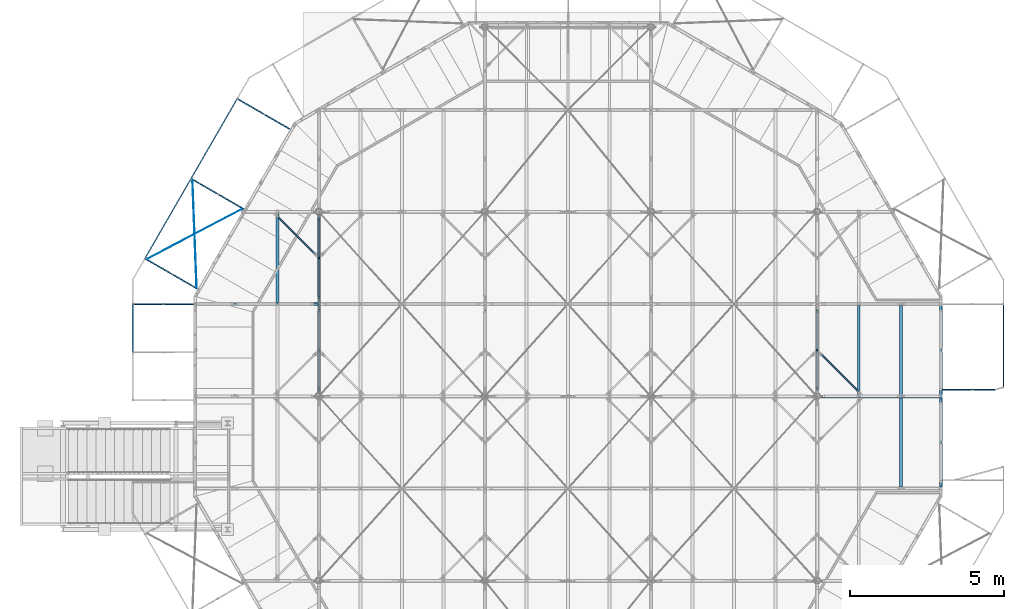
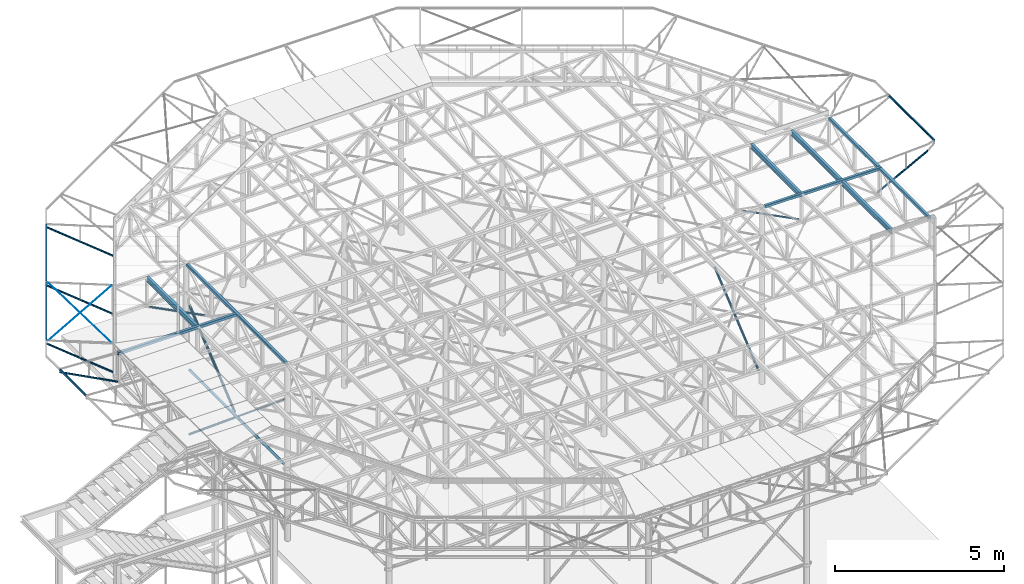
# One storey, part 15 of 132: 18 beams, 10 members, 28 elements without a shape of their own.
"""IFC2X3 building model written with IfcOpenShell, lengths in millimetres."""

import ifcopenshell
import ifcopenshell.guid

model = None  # the IFC model being written
_history = None  # IfcOwnerHistory: only IFC2X3 demands one
_inside = {}  # id of a spatial element -> (the spatial element, [elements in it])
_under = {}  # id of a project, library or spatial element -> (it, [spatial elements below it])
_declared = {}  # id of a project -> (the project, [libraries it declares])
_typed = {}  # id of a type object -> (the type object, [elements of that type])
_made_of = {}  # id of a material, layer set ... -> (it, [elements and type objects made of it])


def new_model(schema):
    """Start an empty IFC model of exactly this schema.

    Asked for "IFC4X3", IfcOpenShell would pick the latest addendum, in which some entities
    have other attributes; the version numbers below select the first issue.
    IFC2X3 requires an IfcOwnerHistory on every rooted entity: one is made here for all.
    """
    global model, _history
    if schema == "IFC4X3":
        model = ifcopenshell.file(schema_version=(4, 3, 0, 0))
    else:
        model = ifcopenshell.file(schema=schema)
    _inside.clear()
    _under.clear()
    _declared.clear()
    _typed.clear()
    _made_of.clear()
    _history = None
    if model.schema == "IFC2X3":
        org = make("IfcOrganization", Name="unknown")
        user = make(
            "IfcPersonAndOrganization",
            ThePerson=make("IfcPerson", FamilyName="unknown"),
            TheOrganization=org,
        )
        app = make(
            "IfcApplication",
            ApplicationDeveloper=org,
            Version="unknown",
            ApplicationFullName="unknown",
            ApplicationIdentifier="unknown",
        )
        _history = make(
            "IfcOwnerHistory",
            OwningUser=user,
            OwningApplication=app,
            ChangeAction="ADDED",
            CreationDate=0,
        )
    return model


def make(cls, **values):
    """One entity of the class cls with the attributes given. An attribute that is None is left unset."""
    return model.create_entity(
        cls, **{name: value for name, value in values.items() if value is not None}
    )


def rooted(cls, **values):
    """An entity with a GlobalId (a new one), such as an element, a storey or a relation."""
    return make(cls, GlobalId=ifcopenshell.guid.new(), OwnerHistory=_history, **values)


def si_unit(unit_type, name, prefix=None):
    """IfcSIUnit, for example si_unit("LENGTHUNIT", "METRE", prefix="MILLI")."""
    return make("IfcSIUnit", UnitType=unit_type, Prefix=prefix, Name=name)


def assignment(units):
    """IfcUnitAssignment: the units of a project."""
    return None if units is None else make("IfcUnitAssignment", Units=units)


def point(xyz):
    """IfcCartesianPoint."""
    return None if xyz is None else make("IfcCartesianPoint", Coordinates=xyz)


def direction(xyz):
    """IfcDirection."""
    return None if xyz is None else make("IfcDirection", DirectionRatios=xyz)


def frame(location, z_axis=None, x_axis=None):
    """IfcAxis2Placement3D, a coordinate frame: its origin and axes. An axis left out is left unset."""
    return make(
        "IfcAxis2Placement3D",
        Location=point(location),
        Axis=direction(z_axis),
        RefDirection=direction(x_axis),
    )


def frame_2d(location, x_axis=None):
    """IfcAxis2Placement2D, a coordinate frame in the plane: its origin and x axis."""
    return make(
        "IfcAxis2Placement2D", Location=point(location), RefDirection=direction(x_axis)
    )


def origin_with_axes():
    """The frame at (0, 0, 0) with the z axis (0, 0, 1) and the x axis (1, 0, 0) written out."""
    return frame((0.0, 0.0, 0.0), z_axis=(0.0, 0.0, 1.0), x_axis=(1.0, 0.0, 0.0))


def origin_2d_with_axis():
    """The frame at (0, 0) in the plane with the x axis (1, 0) written out."""
    return frame_2d((0.0, 0.0), x_axis=(1.0, 0.0))


def place(relative_to, where):
    """IfcLocalPlacement: puts the frame where relative to a parent placement (None: the world)."""
    return make(
        "IfcLocalPlacement", PlacementRelTo=relative_to, RelativePlacement=where
    )


def context(
    kind, dimensions, precision=None, world=None, true_north=None, identifier=None
):
    """IfcGeometricRepresentationContext, for example the 3D "Model" context."""
    return make(
        "IfcGeometricRepresentationContext",
        ContextIdentifier=identifier,
        ContextType=kind,
        CoordinateSpaceDimension=dimensions,
        Precision=precision,
        WorldCoordinateSystem=world,
        TrueNorth=true_north,
    )


def subcontext(parent, identifier, kind, view, scale=None):
    """IfcGeometricRepresentationSubContext, for example "Body" below "Model"."""
    return make(
        "IfcGeometricRepresentationSubContext",
        ContextIdentifier=identifier,
        ContextType=kind,
        ParentContext=parent,
        TargetScale=scale,
        TargetView=view,
    )


def project(units=None, contexts=None):
    """IfcProject with its units and contexts."""
    return rooted(
        "IfcProject",
        Name="project",
        RepresentationContexts=contexts,
        UnitsInContext=assignment(units),
    )


def spatial(cls, under=None, at=None, **own):
    """A site, building, storey or space (cls), placed at a placement, below another one or the project."""
    s = rooted(cls, ObjectPlacement=at, **own)
    if under is not None:
        _under.setdefault(under.id(), (under, []))[1].append(s)
    return s


def polyline(points):
    """IfcPolyline through the points."""
    return make("IfcPolyline", Points=[point(p) for p in points])


def profile(cls, at=None, kind="AREA", **sizes):
    """A parametric profile (cls). Its sizes go by their IFC names, for example OverallWidth=200.0."""
    return make(cls, ProfileType=kind, Position=at, **sizes)


def rectangle(**sizes):
    """IfcRectangleProfileDef."""
    return profile("IfcRectangleProfileDef", **sizes)


def hollow_rectangle(**sizes):
    """IfcRectangleHollowProfileDef."""
    return profile("IfcRectangleHollowProfileDef", **sizes)


def circle(**sizes):
    """IfcCircleProfileDef."""
    return profile("IfcCircleProfileDef", **sizes)


def hollow_circle(**sizes):
    """IfcCircleHollowProfileDef."""
    return profile("IfcCircleHollowProfileDef", **sizes)


def i_section(**sizes):
    """IfcIShapeProfileDef."""
    return profile("IfcIShapeProfileDef", **sizes)


def u_section(**sizes):
    """IfcUShapeProfileDef."""
    return profile("IfcUShapeProfileDef", **sizes)


def outline(outer, holes=None, kind="AREA"):
    """IfcArbitraryClosedProfileDef: a profile drawn as a closed curve; with holes, ...WithVoids."""
    if holes is None:
        return make("IfcArbitraryClosedProfileDef", ProfileType=kind, OuterCurve=outer)
    return make(
        "IfcArbitraryProfileDefWithVoids",
        ProfileType=kind,
        OuterCurve=outer,
        InnerCurves=holes,
    )


def extrude(swept, where, along, depth):
    """IfcExtrudedAreaSolid: the profile swept, set in the frame where, extruded along a direction by depth."""
    return make(
        "IfcExtrudedAreaSolid",
        SweptArea=swept,
        Position=where,
        ExtrudedDirection=direction(along),
        Depth=depth,
    )


def boolean(op, a, b):
    """IfcBooleanResult of two solids."""
    return make("IfcBooleanResult", Operator=op, FirstOperand=a, SecondOperand=b)


def clip(a, b, op="DIFFERENCE"):
    """IfcBooleanClippingResult: the solid a cut by the half space b."""
    return make(
        "IfcBooleanClippingResult", Operator=op, FirstOperand=a, SecondOperand=b
    )


def halfspace(plane, agree):
    """IfcHalfSpaceSolid: all space on one side of the plane z = 0 of the frame plane."""
    return make(
        "IfcHalfSpaceSolid",
        BaseSurface=make("IfcPlane", Position=plane),
        AgreementFlag=agree,
    )


def shape(context_of_items, identifier, shape_type, items):
    """IfcShapeRepresentation: the items that make up one representation, for example the "Body"."""
    return make(
        "IfcShapeRepresentation",
        ContextOfItems=context_of_items,
        RepresentationIdentifier=identifier,
        RepresentationType=shape_type,
        Items=items,
    )


def material(Name=None, Category=None):
    """IfcMaterial."""
    return make("IfcMaterial", Name=Name, Category=Category)


def made_of(thing, what):
    """Note that an element or type object is made of a material, layer set ...; save() writes the relation."""
    if what is not None:
        _made_of.setdefault(what.id(), (what, []))[1].append(thing)
    return thing


def type_object(cls, material=None, **own):
    """A type object (cls), such as IfcWallType, which elements share."""
    return made_of(rooted(cls, **own), material)


def element(
    cls,
    number,
    at=None,
    inside=None,
    cuts=None,
    type_object=None,
    material=None,
    context=None,
    identifier="Body",
    shape_type=None,
    held_by="IfcProductDefinitionShape",
    body=None,
    shapes=None,
    **own,
):
    """One element of the class cls, such as IfcWall. Its Tag is "e" and its number.

    at: its placement. inside: the storey or other place that contains it. cuts: it is an
    opening in that element (IfcRelVoidsElement). A single representation is given by context,
    identifier, shape_type and body (its items); several are given by shapes. held_by: the class
    of the entity that holds the representations. save() writes the other relations.
    """
    e = rooted(cls, Tag="e%d" % number, ObjectPlacement=at, **own)
    if body is not None:
        shapes = [shape(context, identifier, shape_type, body)]
    if shapes is not None:
        e.Representation = make(held_by, Representations=shapes)
    if inside is not None:
        _inside.setdefault(inside.id(), (inside, []))[1].append(e)
    if cuts is not None:
        rooted(
            "IfcRelVoidsElement", RelatingBuildingElement=cuts, RelatedOpeningElement=e
        )
    if type_object is not None:
        _typed.setdefault(type_object.id(), (type_object, []))[1].append(e)
    return made_of(e, material)


def aggregate(whole, parts):
    """IfcRelAggregates: a whole, such as a stair, and the parts it consists of."""
    return rooted("IfcRelAggregates", RelatingObject=whole, RelatedObjects=parts)


def save(model, path):
    """Write the relations noted so far, then the file.

    IfcRelAggregates (storeys below a building ...), IfcRelContainedInSpatialStructure (elements
    in a storey), IfcRelDefinesByType, IfcRelAssociatesMaterial and IfcRelDeclares: one each for
    every whole, place, type object, material and project.
    """
    for whole, parts in _under.values():
        aggregate(whole, parts)
    for where, things in _inside.values():
        rooted(
            "IfcRelContainedInSpatialStructure",
            RelatedElements=things,
            RelatingStructure=where,
        )
    for kind, things in _typed.values():
        rooted("IfcRelDefinesByType", RelatedObjects=things, RelatingType=kind)
    for what, things in _made_of.values():
        rooted("IfcRelAssociatesMaterial", RelatedObjects=things, RelatingMaterial=what)
    for by, libraries in _declared.values():
        rooted("IfcRelDeclares", RelatingContext=by, RelatedDefinitions=libraries)
    model.write(path)


model = new_model("IFC2X3")

# Units and contexts
model_context = context("Model", 3, precision=1e-05, world=origin_with_axes())
body_context = subcontext(model_context, "Body", "Model", "MODEL_VIEW")
ifc_project = project(units=[si_unit("LENGTHUNIT", "METRE", prefix="MILLI"), si_unit("AREAUNIT", "SQUARE_METRE"), si_unit("VOLUMEUNIT", "CUBIC_METRE"), si_unit("MASSUNIT", "GRAM", prefix="KILO"), si_unit("TIMEUNIT", "SECOND"), si_unit("PLANEANGLEUNIT", "RADIAN"), si_unit("SOLIDANGLEUNIT", "STERADIAN"), si_unit("THERMODYNAMICTEMPERATUREUNIT", "DEGREE_CELSIUS"), si_unit("LUMINOUSINTENSITYUNIT", "LUMEN")], contexts=[model_context])

# Site, building, storey
site_placement = place(None, origin_with_axes())
site = spatial("IfcSite", under=ifc_project, at=site_placement, Name="Budowa", CompositionType="ELEMENT")
building_placement = place(site_placement, origin_with_axes())
building = spatial("IfcBuilding", under=site, at=building_placement, Name="Undefined", CompositionType="ELEMENT")
storey_placement = place(building_placement, origin_with_axes())
storey = spatial("IfcBuildingStorey", under=building, at=storey_placement, Name="Undefined", CompositionType="ELEMENT", Elevation=0.0)

# Assembly, member
assembly_1_placement = place(storey_placement, origin_with_axes())
assembly_1 = element("IfcElementAssembly", 1, at=assembly_1_placement, inside=storey, Name="Steel Assembly", AssemblyPlace="NOTDEFINED", PredefinedType="RIGID_FRAME")
ifc_material_1 = material(Name="STEEL/S235JR")
member_type_1 = type_object("IfcMemberType", Name="CHS76.1*3", PredefinedType="NOTDEFINED")
member_1_placement = place(assembly_1_placement, frame((4016.99999738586, 17860.1013797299, 7739.00004577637), z_axis=(1.0, 0.0, 0.0), x_axis=(0.0, -0.76906919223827, 0.639165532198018)))
member_1 = element("IfcMember", 2, at=member_1_placement, type_object=member_type_1, material=ifc_material_1, Name="BEAM", ObjectType="CHS76.1*3", context=body_context, shape_type="CSG", body=[
    boolean("DIFFERENCE", boolean("DIFFERENCE", boolean("DIFFERENCE", boolean("DIFFERENCE", extrude(hollow_circle(Radius=38.05, WallThickness=3.0, at=origin_2d_with_axis()), frame((3481.05096829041, 0.0, 0.0), z_axis=(-1.0, 0.0, 0.0), x_axis=(0.0, -1.0, 0.0)), (0.0, 0.0, 1.0), 3395.69), extrude(rectangle(XDim=10.0, YDim=80.1, at=origin_2d_with_axis()), frame((3400.05097323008, 9.67559365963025e-14, 1.74737942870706e-06), z_axis=(1.0, 0.0, 0.0), x_axis=(0.0, 0.0, 1.0)), (0.0, 0.0, 1.0), 83.0)), extrude(rectangle(XDim=10.0, YDim=78.0, at=origin_2d_with_axis()), frame((166.363191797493, 5.83418868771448e-11, 2.32343882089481e-06), z_axis=(-1.0, 0.0, 0.0), x_axis=(0.0, 0.0, -1.0)), (0.0, 0.0, 1.0), 93.0)), halfspace(frame((3481.05096828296, 1.09139364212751e-11, 12.0000029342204), z_axis=(-1.0, 0.0, 0.0), x_axis=(0.0, -1.0, 0.0)), True)), halfspace(frame((85.3631917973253, 4.72937244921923e-11, 12.0000023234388), z_axis=(1.0, 0.0, 0.0), x_axis=(0.0, 0.0, -1.0)), True)),
])
aggregate(assembly_1, [member_1])

assembly_2_placement = place(storey_placement, origin_with_axes())
assembly_2 = element("IfcElementAssembly", 3, at=assembly_2_placement, inside=storey, Name="Steel Assembly", AssemblyPlace="NOTDEFINED", PredefinedType="RIGID_FRAME")
member_2_placement = place(assembly_2_placement, frame((4016.99999738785, 17860.1013797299, 12492.9997558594), z_axis=(1.0, 0.0, 0.0), x_axis=(0.0, -0.769069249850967, -0.639165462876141)))
member_2 = element("IfcMember", 4, at=member_2_placement, type_object=member_type_1, material=ifc_material_1, Name="BEAM", ObjectType="CHS76.1*3", context=body_context, shape_type="CSG", body=[
    boolean("DIFFERENCE", boolean("DIFFERENCE", boolean("DIFFERENCE", boolean("DIFFERENCE", extrude(hollow_circle(Radius=38.05, WallThickness=3.0, at=origin_2d_with_axis()), frame((3481.04986608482, -1.93237085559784e-13, 0.0), z_axis=(-1.0, 0.0, 0.0), x_axis=(0.0, -1.0, 0.0)), (0.0, 0.0, 1.0), 3395.69), extrude(rectangle(XDim=10.0, YDim=80.1, at=origin_2d_with_axis()), frame((3400.04985885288, -5.34461364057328e-13, 2.0142820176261e-06), z_axis=(1.0, 0.0, 0.0), x_axis=(0.0, 0.0, 1.0)), (0.0, 0.0, 1.0), 83.0)), extrude(rectangle(XDim=10.0, YDim=88.0, at=origin_2d_with_axis()), frame((166.363191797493, 5.83418868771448e-11, 2.32343882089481e-06), z_axis=(-1.0, 0.0, 0.0), x_axis=(0.0, 0.0, -1.0)), (0.0, 0.0, 1.0), 93.0)), halfspace(frame((3481.04986608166, -1.72803993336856e-11, 12.0000032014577), z_axis=(-1.0, 0.0, 0.0), x_axis=(0.0, -1.0, 0.0)), True)), halfspace(frame((85.3631917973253, 4.72937244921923e-11, 12.0000023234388), z_axis=(1.0, 0.0, 0.0), x_axis=(0.0, 0.0, -1.0)), True)),
])
aggregate(assembly_2, [member_2])

assembly_3_placement = place(storey_placement, origin_with_axes())
assembly_3 = element("IfcElementAssembly", 5, at=assembly_3_placement, inside=storey, Name="Steel Assembly", AssemblyPlace="NOTDEFINED", PredefinedType="RIGID_FRAME")
member_3_placement = place(assembly_3_placement, frame((20233.0000024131, 15000.0012512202, 10116.0002562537), z_axis=(-1.0, 0.0, 0.0), x_axis=(0.0, -0.769069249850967, -0.639165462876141)))
member_3 = element("IfcMember", 6, at=member_3_placement, type_object=member_type_1, material=ifc_material_1, Name="BEAM", ObjectType="CHS76.1*3", context=body_context, shape_type="CSG", body=[
    boolean("DIFFERENCE", boolean("DIFFERENCE", boolean("DIFFERENCE", boolean("DIFFERENCE", extrude(hollow_circle(Radius=38.05, WallThickness=3.0, at=origin_2d_with_axis()), frame((3633.55110961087, 0.0, 0.0), z_axis=(-1.0, 0.0, 0.0), x_axis=(0.0, -1.0, 0.0)), (0.0, 0.0, 1.0), 3395.69), extrude(rectangle(XDim=10.0, YDim=80.1, at=origin_2d_with_axis()), frame((318.860805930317, -8.477663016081e-13, 1.74539309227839e-06), z_axis=(-1.0, 0.0, 0.0), x_axis=(0.0, 0.0, 1.0)), (0.0, 0.0, 1.0), 83.0)), extrude(rectangle(XDim=10.0, YDim=78.0, at=origin_2d_with_axis()), frame((3552.55110960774, 4.53202460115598e-07, 2.41760790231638e-06), z_axis=(1.0, 0.0, 0.0), x_axis=(0.0, 0.0, 1.0)), (0.0, 0.0, 1.0), 93.0)), halfspace(frame((3633.55110960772, 4.53187567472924e-07, 12.0000024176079), z_axis=(-1.0, 0.0, 0.0), x_axis=(0.0, -1.0, 0.0)), True)), halfspace(frame((237.860802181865, 1.2732925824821e-11, 12.0000029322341), z_axis=(1.0, 0.0, 0.0), x_axis=(0.0, 1.0, 0.0)), True)),
])
aggregate(assembly_3, [member_3])

# Assembly, beam
assembly_4_placement = place(storey_placement, origin_with_axes())
assembly_4 = element("IfcElementAssembly", 7, at=assembly_4_placement, inside=storey, Name="Steel Assembly", AssemblyPlace="NOTDEFINED", PredefinedType="RIGID_FRAME")
beam_type_1 = type_object("IfcBeamType", Name="CHS88.9*3", PredefinedType="NOTDEFINED")
beam_1_placement = place(assembly_4_placement, frame((4017.00000617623, 12088.9000000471, 10116.0003779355), z_axis=(-1.0, 0.0, 0.0), x_axis=(0.0, 1.0, 0.0)))
beam_1 = element("IfcBeam", 8, at=beam_1_placement, type_object=beam_type_1, material=ifc_material_1, Name="BEAM", ObjectType="CHS88.9*3", context=body_context, shape_type="CSG", body=[
    boolean("DIFFERENCE", boolean("DIFFERENCE", boolean("DIFFERENCE", boolean("DIFFERENCE", extrude(hollow_circle(Radius=44.45, WallThickness=3.0, at=origin_2d_with_axis()), frame((5703.19209466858, 0.0, 0.0), z_axis=(-1.0, 0.0, 0.0), x_axis=(0.0, -1.0, 0.0)), (0.0, 0.0, 1.0), 5584.18), extrude(rectangle(XDim=9.0, YDim=92.9, at=origin_2d_with_axis()), frame((220.00790537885, 0.0, 3.42542261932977e-06), z_axis=(-1.0, 0.0, 0.0), x_axis=(0.0, 0.0, -1.0)), (0.0, 0.0, 1.0), 103.0)), extrude(rectangle(XDim=9.0, YDim=92.9, at=origin_2d_with_axis()), frame((5602.19209466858, 0.0, 3.70549059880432e-06), z_axis=(1.0, 0.0, 0.0), x_axis=(0.0, 0.0, -1.0)), (0.0, 0.0, 1.0), 103.0)), halfspace(frame((5703.19209466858, 0.0, -11.9999962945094), z_axis=(-1.0, 0.0, 0.0), x_axis=(0.0, 1.0, 0.0)), True)), halfspace(frame((119.00790537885, 0.0, -11.9999965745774), z_axis=(1.0, 0.0, 0.0), x_axis=(0.0, -1.0, 0.0)), True)),
])
aggregate(assembly_4, [beam_1])

# Assembly, member
assembly_5_placement = place(storey_placement, origin_with_axes())
assembly_5 = element("IfcElementAssembly", 9, at=assembly_5_placement, inside=storey, Name="Steel Assembly", AssemblyPlace="NOTDEFINED", PredefinedType="RIGID_FRAME")
ifc_material_2 = material(Name="STEEL/S235")
member_type_2 = type_object("IfcMemberType", Name="CHS60.3*6.3", PredefinedType="NOTDEFINED")
member_4_placement = place(assembly_5_placement, frame((4033.0000023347, 17860.1013797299, 7739.00004577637), z_axis=(-1.0, 0.0, 0.0), x_axis=(0.0, -0.76906919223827, 0.639165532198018)))
member_4 = element("IfcMember", 10, at=member_4_placement, type_object=member_type_2, material=ifc_material_2, Name="BEAM", ObjectType="CHS60.3*6.3", context=body_context, shape_type="CSG", body=[
    boolean("DIFFERENCE", boolean("DIFFERENCE", boolean("DIFFERENCE", boolean("DIFFERENCE", extrude(hollow_circle(Radius=30.15, WallThickness=6.3, at=origin_2d_with_axis()), frame((7362.46270940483, -4.08698780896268e-13, 0.0), z_axis=(-1.0, 0.0, 0.0), x_axis=(0.0, -1.0, 0.0)), (0.0, 0.0, 1.0), 7287.1), extrude(rectangle(XDim=8.0, YDim=64.3, at=origin_2d_with_axis()), frame((7312.46270938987, -3.70725672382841e-12, 2.41760744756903e-06), z_axis=(1.0, 0.0, 0.0), x_axis=(0.0, 0.0, 1.0)), (0.0, 0.0, 1.0), 52.0)), extrude(rectangle(XDim=8.0, YDim=64.3, at=origin_2d_with_axis()), frame((125.363191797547, -3.76239039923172e-11, 2.32343927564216e-06), z_axis=(-1.0, 0.0, 0.0), x_axis=(0.0, 0.0, 1.0)), (0.0, 0.0, 1.0), 52.0)), halfspace(frame((7362.46270938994, -7.27595761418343e-12, 12.0000024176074), z_axis=(-1.0, 0.0, 0.0), x_axis=(0.0, -1.0, 0.0)), True)), halfspace(frame((75.3631917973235, -5.0931703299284e-11, 12.0000023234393), z_axis=(1.0, 0.0, 0.0), x_axis=(0.0, 1.0, 0.0)), True)),
])
aggregate(assembly_5, [member_4])

assembly_6_placement = place(storey_placement, origin_with_axes())
assembly_6 = element("IfcElementAssembly", 11, at=assembly_6_placement, inside=storey, Name="Steel Assembly", AssemblyPlace="NOTDEFINED", PredefinedType="RIGID_FRAME")
member_5_placement = place(assembly_6_placement, frame((4033.00000233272, 17860.1013797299, 12492.9997558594), z_axis=(-1.0, 0.0, 0.0), x_axis=(0.0, -0.769069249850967, -0.639165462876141)))
member_5 = element("IfcMember", 12, at=member_5_placement, type_object=member_type_2, material=ifc_material_2, Name="BEAM", ObjectType="CHS60.3*6.3", context=body_context, shape_type="CSG", body=[
    boolean("DIFFERENCE", boolean("DIFFERENCE", boolean("DIFFERENCE", boolean("DIFFERENCE", extrude(hollow_circle(Radius=30.15, WallThickness=6.3, at=origin_2d_with_axis()), frame((3572.46182118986, 1.98311468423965e-13, 0.0), z_axis=(-1.0, 0.0, 0.0), x_axis=(0.0, -1.0, 0.0)), (0.0, 0.0, 1.0), 3497.1), extrude(rectangle(XDim=8.0, YDim=64.3, at=origin_2d_with_axis()), frame((3522.46182118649, 2.42827979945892e-12, 2.51177698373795e-06), z_axis=(1.0, 0.0, 0.0), x_axis=(0.0, 0.0, 1.0)), (0.0, 0.0, 1.0), 52.0)), extrude(rectangle(XDim=8.0, YDim=64.3, at=origin_2d_with_axis()), frame((125.363191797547, -3.76239039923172e-11, 2.32343927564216e-06), z_axis=(-1.0, 0.0, 0.0), x_axis=(0.0, 0.0, 1.0)), (0.0, 0.0, 1.0), 52.0)), halfspace(frame((3572.46182118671, 8.18545231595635e-12, 12.000002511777), z_axis=(-1.0, 0.0, 0.0), x_axis=(0.0, -1.0, 0.0)), True)), halfspace(frame((75.3631917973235, -5.0931703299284e-11, 12.0000023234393), z_axis=(1.0, 0.0, 0.0), x_axis=(0.0, 1.0, 0.0)), True)),
])
aggregate(assembly_6, [member_5])

# Assembly, beam
assembly_7_placement = place(storey_placement, origin_with_axes())
assembly_7 = element("IfcElementAssembly", 13, at=assembly_7_placement, inside=storey, Name="Steel Assembly", AssemblyPlace="NOTDEFINED", PredefinedType="RIGID_FRAME")
beam_type_2 = type_object("IfcBeamType", Name="IPE180", PredefinedType="NOTDEFINED")
beam_2_placement = place(assembly_7_placement, frame((22954.8999999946, 12050.0000000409, 13790.0), z_axis=(0.0, 0.0, 1.0), x_axis=(0.0, 1.0, 0.0)))
beam_2 = element("IfcBeam", 14, at=beam_2_placement, type_object=beam_type_2, material=ifc_material_2, Name="BEAM", ObjectType="IPE180", context=body_context, shape_type="SweptSolid", body=[
    extrude(i_section(OverallWidth=91.0, OverallDepth=180.0, WebThickness=5.300000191, FlangeThickness=8.0, FilletRadius=9.0, at=origin_2d_with_axis()), frame((2900.00000000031, 0.0, 0.0), z_axis=(-1.0, 0.0, 0.0), x_axis=(0.0, -1.0, 0.0)), (0.0, 0.0, 1.0), 2900.0),
])
aggregate(assembly_7, [beam_2])

assembly_8_placement = place(storey_placement, origin_with_axes())
assembly_8 = element("IfcElementAssembly", 15, at=assembly_8_placement, inside=storey, Name="Steel Assembly", AssemblyPlace="NOTDEFINED", PredefinedType="RIGID_FRAME")
beam_3_placement = place(assembly_8_placement, frame((22954.8999999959, 9050.00000004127, 13790.0), z_axis=(0.0, 0.0, 1.0), x_axis=(0.0, 1.0, 0.0)))
beam_3 = element("IfcBeam", 16, at=beam_3_placement, type_object=beam_type_2, material=ifc_material_2, Name="BEAM", ObjectType="IPE180", context=body_context, shape_type="SweptSolid", body=[
    extrude(i_section(OverallWidth=91.0, OverallDepth=180.0, WebThickness=5.300000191, FlangeThickness=8.0, FilletRadius=9.0, at=origin_2d_with_axis()), frame((2900.00000000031, 0.0, 0.0), z_axis=(-1.0, 0.0, 0.0), x_axis=(0.0, -1.0, 0.0)), (0.0, 0.0, 1.0), 2900.0),
])
aggregate(assembly_8, [beam_3])

assembly_9_placement = place(storey_placement, origin_with_axes())
assembly_9 = element("IfcElementAssembly", 17, at=assembly_9_placement, inside=storey, Name="Steel Assembly", AssemblyPlace="NOTDEFINED", PredefinedType="RIGID_FRAME")
beam_4_placement = place(assembly_9_placement, frame((2676.09999980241, 15050.0000000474, 13790.0), z_axis=(0.0, 0.0, 1.0), x_axis=(0.0, 1.0, 0.0)))
beam_4 = element("IfcBeam", 18, at=beam_4_placement, type_object=beam_type_2, material=ifc_material_2, Name="BEAM", ObjectType="IPE180", context=body_context, shape_type="SweptSolid", body=[
    extrude(i_section(OverallWidth=91.0, OverallDepth=180.0, WebThickness=5.300000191, FlangeThickness=8.0, FilletRadius=9.0, at=origin_2d_with_axis()), frame((2900.00000000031, 0.0, 0.0), z_axis=(-1.0, 0.0, 0.0), x_axis=(0.0, -1.0, 0.0)), (0.0, 0.0, 1.0), 2900.0),
])
aggregate(assembly_9, [beam_4])

assembly_10_placement = place(storey_placement, origin_with_axes())
assembly_10 = element("IfcElementAssembly", 19, at=assembly_10_placement, inside=storey, Name="Steel Assembly", AssemblyPlace="NOTDEFINED", PredefinedType="RIGID_FRAME")
beam_5_placement = place(assembly_10_placement, frame((21573.8999999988, 12050.0000000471, 13790.0), z_axis=(0.0, 0.0, 1.0), x_axis=(0.0, 1.0, 0.0)))
beam_5 = element("IfcBeam", 20, at=beam_5_placement, type_object=beam_type_2, material=ifc_material_2, Name="BEAM", ObjectType="IPE180", context=body_context, shape_type="SweptSolid", body=[
    extrude(i_section(OverallWidth=91.0, OverallDepth=180.0, WebThickness=5.300000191, FlangeThickness=8.0, FilletRadius=9.0, at=origin_2d_with_axis()), frame((2900.00000000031, 0.0, 0.0), z_axis=(-1.0, 0.0, 0.0), x_axis=(0.0, -1.0, 0.0)), (0.0, 0.0, 1.0), 2900.0),
])
aggregate(assembly_10, [beam_5])

assembly_11_placement = place(storey_placement, origin_with_axes())
assembly_11 = element("IfcElementAssembly", 21, at=assembly_11_placement, inside=storey, Name="Steel Assembly", AssemblyPlace="NOTDEFINED", PredefinedType="RIGID_FRAME")
beam_type_3 = type_object("IfcBeamType", Name="D10", PredefinedType="NOTDEFINED")
beam_6_placement = place(assembly_11_placement, frame((-85.3137186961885, 19022.396659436, 13945.5281319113), z_axis=(0.0432481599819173, -0.0249672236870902, 0.998752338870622), x_axis=(0.0391284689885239, -0.998878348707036, -0.0266647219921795)))
beam_6 = element("IfcBeam", 22, at=beam_6_placement, type_object=beam_type_3, material=ifc_material_2, Name="BEAM", ObjectType="D10", context=body_context, shape_type="SweptSolid", body=[
    extrude(circle(Radius=5.0, at=origin_2d_with_axis()), frame((3489.02120950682, 1.67199953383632e-13, 1.2104974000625e-14), z_axis=(-1.0, 0.0, 0.0), x_axis=(0.0, -1.0, 0.0)), (0.0, 0.0, 1.0), 3489.02),
])
aggregate(assembly_11, [beam_6])

assembly_12_placement = place(storey_placement, origin_with_axes())
assembly_12 = element("IfcElementAssembly", 23, at=assembly_12_placement, inside=storey, Name="Steel Assembly", AssemblyPlace="NOTDEFINED", PredefinedType="RIGID_FRAME")
beam_7_placement = place(assembly_12_placement, frame((-1560.22009735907, 16467.5676681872, 13945.5281319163), z_axis=(0.0432481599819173, -0.0249672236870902, 0.998752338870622), x_axis=(0.884584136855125, 0.465617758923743, -0.0266647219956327)))
beam_7 = element("IfcBeam", 24, at=beam_7_placement, type_object=beam_type_3, material=ifc_material_2, Name="BEAM", ObjectType="D10", context=body_context, shape_type="SweptSolid", body=[
    extrude(circle(Radius=5.0, at=origin_2d_with_axis()), frame((3489.02120950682, 1.67199953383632e-13, 1.2104974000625e-14), z_axis=(-1.0, 0.0, 0.0), x_axis=(0.0, -1.0, 0.0)), (0.0, 0.0, 1.0), 3489.02),
])
aggregate(assembly_12, [beam_7])

assembly_13_placement = place(storey_placement, origin_with_axes())
assembly_13 = element("IfcElementAssembly", 25, at=assembly_13_placement, inside=storey, Name="Steel Assembly", AssemblyPlace="NOTDEFINED", PredefinedType="RIGID_FRAME")
beam_type_4 = type_object("IfcBeamType", Name="C70*40*4", PredefinedType="NOTDEFINED")
beam_8_placement = place(assembly_13_placement, frame((26280.0003811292, 12271.0975706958, 13945.5046676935), z_axis=(0.0, 0.0, -1.0), x_axis=(0.0, 1.0, 0.0)))
beam_8 = element("IfcBeam", 26, at=beam_8_placement, type_object=beam_type_4, material=ifc_material_2, Name="BEAM", ObjectType="C70*40*4", context=body_context, shape_type="SweptSolid", body=[
    extrude(u_section(Depth=70.0, FlangeWidth=40.0, WebThickness=4.0, FlangeThickness=4.0, FilletRadius=6.0, at=origin_2d_with_axis()), frame((2703.90242938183, 0.0, 0.0), z_axis=(-1.0, 0.0, 0.0), x_axis=(0.0, -1.0, 0.0)), (0.0, 0.0, 1.0), 2703.9),
])
aggregate(assembly_13, [beam_8])

assembly_14_placement = place(storey_placement, origin_with_axes())
assembly_14 = element("IfcElementAssembly", 27, at=assembly_14_placement, inside=storey, Name="Steel Assembly", AssemblyPlace="NOTDEFINED", PredefinedType="RIGID_FRAME")
beam_9_placement = place(assembly_14_placement, frame((1354.53201560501, 21655.2000105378, 13945.005019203), z_axis=(4.93841134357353e-07, 8.55724814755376e-07, -0.999999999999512), x_axis=(-0.499969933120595, -0.866042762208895, -9.88000000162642e-07)))
beam_9 = element("IfcBeam", 28, at=beam_9_placement, type_object=beam_type_4, material=ifc_material_2, Name="BEAM", ObjectType="C70*40*4", context=body_context, shape_type="SweptSolid", body=[
    extrude(u_section(Depth=70.0, FlangeWidth=40.0, WebThickness=4.0, FlangeThickness=4.0, FilletRadius=6.0, at=origin_2d_with_axis()), frame((2949.99999995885, 1.63757896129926e-13, 0.0), z_axis=(-1.0, 0.0, 0.0), x_axis=(0.0, -1.0, 0.0)), (0.0, 0.0, 1.0), 2950.0),
])
aggregate(assembly_14, [beam_9])

assembly_15_placement = place(storey_placement, origin_with_axes())
assembly_15 = element("IfcElementAssembly", 29, at=assembly_15_placement, inside=storey, Name="Steel Assembly", AssemblyPlace="NOTDEFINED", PredefinedType="RIGID_FRAME")
beam_10_placement = place(assembly_15_placement, frame((-145.428259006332, 19057.1008686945, 13945.0050192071), z_axis=(0.0, 0.0, -1.0), x_axis=(-0.499968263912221, -0.86604372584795, 0.0)))
beam_10 = element("IfcBeam", 30, at=beam_10_placement, type_object=beam_type_4, material=ifc_material_2, Name="BEAM", ObjectType="C70*40*4", context=body_context, shape_type="SweptSolid", body=[
    extrude(u_section(Depth=70.0, FlangeWidth=40.0, WebThickness=4.0, FlangeThickness=4.0, FilletRadius=6.0, at=origin_2d_with_axis()), frame((2949.99999995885, 1.63757896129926e-13, 0.0), z_axis=(-1.0, 0.0, 0.0), x_axis=(0.0, -1.0, 0.0)), (0.0, 0.0, 1.0), 2950.0),
])
aggregate(assembly_15, [beam_10])

assembly_16_placement = place(storey_placement, origin_with_axes())
assembly_16 = element("IfcElementAssembly", 31, at=assembly_16_placement, inside=storey, Name="Steel Assembly", AssemblyPlace="NOTDEFINED", PredefinedType="RIGID_FRAME")
beam_11_placement = place(assembly_16_placement, frame((-2030.00038150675, 14975.0000000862, 13945.0050191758), z_axis=(0.0, 0.0, -1.0), x_axis=(0.0, -1.0, 0.0)))
beam_11 = element("IfcBeam", 32, at=beam_11_placement, type_object=beam_type_4, material=ifc_material_2, Name="BEAM", ObjectType="C70*40*4", context=body_context, shape_type="SweptSolid", body=[
    extrude(u_section(Depth=70.0, FlangeWidth=40.0, WebThickness=4.0, FlangeThickness=4.0, FilletRadius=6.0, at=origin_2d_with_axis()), frame((1520.00000003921, 0.0, 0.0), z_axis=(-1.0, 0.0, 0.0), x_axis=(0.0, -1.0, 0.0)), (0.0, 0.0, 1.0), 1520.0),
])
aggregate(assembly_16, [beam_11])

# Assembly, member
assembly_17_placement = place(storey_placement, origin_with_axes())
assembly_17 = element("IfcElementAssembly", 33, at=assembly_17_placement, inside=storey, Name="Steel Assembly", AssemblyPlace="NOTDEFINED", PredefinedType="RIGID_FRAME")
member_type_3 = type_object("IfcMemberType", Name="SHS50*4", PredefinedType="NOTDEFINED")
member_6_placement = place(assembly_17_placement, frame((24288.2796111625, 12220.0000000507, 12802.135188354), z_axis=(0.0, 1.0, 0.0), x_axis=(0.885407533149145, 0.0, 0.464815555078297)))
member_6 = element("IfcMember", 34, at=member_6_placement, type_object=member_type_3, material=ifc_material_2, Name="BEAM", ObjectType="SHS50*4", context=body_context, shape_type="CSG", body=[
    boolean("DIFFERENCE", boolean("DIFFERENCE", extrude(hollow_rectangle(XDim=50.0, YDim=50.0, WallThickness=4.0, InnerFilletRadius=4.0, OuterFilletRadius=8.0, at=origin_2d_with_axis()), frame((2258.96020314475, 0.0, -1.81898940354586e-12), z_axis=(-1.0, 0.0, 0.0), x_axis=(0.0, -1.0, 0.0)), (0.0, 0.0, 1.0), 2258.96), extrude(outline(polyline([(0.0, 0.0), (50.4314498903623, 8.00355337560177e-11), (87.5008850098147, 281.570343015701), (37.9286422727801, 288.096649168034), (0.0, 0.0)])), frame((1512.28825522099, 822.147042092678, 24.9999999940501), z_axis=(0.464815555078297, -0.885407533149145, 0.0), x_axis=(0.115568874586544, 0.0606706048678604, -0.991444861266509)), (0.0, 0.0, 1.0), 1100.0)), halfspace(frame((26.2486785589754, -24.9999999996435, -25.0000000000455), z_axis=(-0.885407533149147, -0.464815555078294, 0.0), x_axis=(-0.464815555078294, 0.885407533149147, 0.0)), False)),
])
aggregate(assembly_17, [member_6])

assembly_18_placement = place(storey_placement, origin_with_axes())
assembly_18 = element("IfcElementAssembly", 35, at=assembly_18_placement, inside=storey, Name="Steel Assembly", AssemblyPlace="NOTDEFINED", PredefinedType="RIGID_FRAME")
member_7_placement = place(assembly_18_placement, frame((92.0815023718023, 15484.8203612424, 12802.1351883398), z_axis=(0.499969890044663, 0.866042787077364, 0.0), x_axis=(-0.766800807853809, 0.442677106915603, 0.464815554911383)))
member_7 = element("IfcMember", 36, at=member_7_placement, type_object=member_type_3, material=ifc_material_2, Name="BEAM", ObjectType="SHS50*4", context=body_context, shape_type="Clipping", body=[
    clip(clip(extrude(hollow_rectangle(XDim=50.0, YDim=50.0, WallThickness=4.0, InnerFilletRadius=4.0, OuterFilletRadius=8.0, at=origin_2d_with_axis()), frame((2325.27637080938, 1.2907876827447e-13, 5.21059351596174e-14), z_axis=(-1.0, 0.0, 0.0), x_axis=(0.0, -1.0, 0.0)), (0.0, 0.0, 1.0), 2325.28), halfspace(frame((26.2486785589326, 24.9999999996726, -25.0000000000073), z_axis=(-0.885407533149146, 0.464815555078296, 0.0), x_axis=(0.0, 0.0, 1.0)), False)), halfspace(frame((2258.9602037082, -25.0000000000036, -1.40062184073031e-10), z_axis=(-0.855808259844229, -0.517293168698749, 0.0), x_axis=(0.0, 0.0, -1.0)), True)),
])
aggregate(assembly_18, [member_7])

assembly_19_placement = place(storey_placement, origin_with_axes())
assembly_19 = element("IfcElementAssembly", 37, at=assembly_19_placement, inside=storey, Name="Steel Assembly", AssemblyPlace="NOTDEFINED", PredefinedType="RIGID_FRAME")
member_8_placement = place(assembly_19_placement, frame((1591.98637644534, 18082.9514912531, 12802.1351883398), z_axis=(0.499969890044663, 0.866042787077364, 0.0), x_axis=(-0.766800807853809, 0.442677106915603, 0.464815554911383)))
member_8 = element("IfcMember", 38, at=member_8_placement, type_object=member_type_3, material=ifc_material_2, Name="BEAM", ObjectType="SHS50*4", context=body_context, shape_type="Clipping", body=[
    clip(clip(extrude(hollow_rectangle(XDim=50.0, YDim=50.0, WallThickness=4.0, InnerFilletRadius=4.0, OuterFilletRadius=8.0, at=origin_2d_with_axis()), frame((2325.27637080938, 1.2907876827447e-13, 5.21059351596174e-14), z_axis=(-1.0, 0.0, 0.0), x_axis=(0.0, -1.0, 0.0)), (0.0, 0.0, 1.0), 2325.28), halfspace(frame((26.2486785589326, 24.9999999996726, -25.0000000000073), z_axis=(-0.885407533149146, 0.464815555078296, 0.0), x_axis=(0.0, 0.0, 1.0)), False)), halfspace(frame((2258.9602037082, -25.0000000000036, -1.40062184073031e-10), z_axis=(-0.855808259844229, -0.517293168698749, 0.0), x_axis=(0.0, 0.0, -1.0)), True)),
])
aggregate(assembly_19, [member_8])

assembly_20_placement = place(storey_placement, origin_with_axes())
assembly_20 = element("IfcElementAssembly", 39, at=assembly_20_placement, inside=storey, Name="Steel Assembly", AssemblyPlace="NOTDEFINED", PredefinedType="RIGID_FRAME")
member_9_placement = place(assembly_20_placement, frame((3091.94665303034, 20681.0506365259, 12802.1351883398), z_axis=(0.499969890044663, 0.866042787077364, 0.0), x_axis=(-0.766800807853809, 0.442677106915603, 0.464815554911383)))
member_9 = element("IfcMember", 40, at=member_9_placement, type_object=member_type_3, material=ifc_material_2, Name="BEAM", ObjectType="SHS50*4", context=body_context, shape_type="Clipping", body=[
    clip(clip(extrude(hollow_rectangle(XDim=50.0, YDim=50.0, WallThickness=4.0, InnerFilletRadius=4.0, OuterFilletRadius=8.0, at=origin_2d_with_axis()), frame((2325.27637080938, 1.2907876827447e-13, 5.21059351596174e-14), z_axis=(-1.0, 0.0, 0.0), x_axis=(0.0, -1.0, 0.0)), (0.0, 0.0, 1.0), 2325.28), halfspace(frame((26.2486785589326, 24.9999999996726, -25.0000000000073), z_axis=(-0.885407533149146, 0.464815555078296, 0.0), x_axis=(0.0, 0.0, 1.0)), False)), halfspace(frame((2258.9602037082, -25.0000000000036, -1.40062184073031e-10), z_axis=(-0.855808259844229, -0.517293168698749, 0.0), x_axis=(0.0, 0.0, -1.0)), True)),
])
aggregate(assembly_20, [member_9])

assembly_21_placement = place(storey_placement, origin_with_axes())
assembly_21 = element("IfcElementAssembly", 41, at=assembly_21_placement, inside=storey, Name="Steel Assembly", AssemblyPlace="NOTDEFINED", PredefinedType="RIGID_FRAME")
member_10_placement = place(assembly_21_placement, frame((-38.2796111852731, 15000.0000000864, 12802.1351883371), z_axis=(0.0, 1.0, 0.0), x_axis=(-0.885407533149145, 0.0, 0.464815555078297)))
member_10 = element("IfcMember", 42, at=member_10_placement, type_object=member_type_3, material=ifc_material_2, Name="BEAM", ObjectType="SHS50*4", context=body_context, shape_type="Clipping", body=[
    clip(clip(extrude(hollow_rectangle(XDim=50.0, YDim=50.0, WallThickness=4.0, InnerFilletRadius=4.0, OuterFilletRadius=8.0, at=origin_2d_with_axis()), frame((2286.55526217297, 7.105427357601e-15, -1.81898940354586e-12), z_axis=(-1.0, 0.0, 0.0), x_axis=(0.0, -1.0, 0.0)), (0.0, 0.0, 1.0), 2286.56), halfspace(frame((26.2486785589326, 24.9999999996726, -25.0000000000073), z_axis=(-0.885407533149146, 0.464815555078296, 0.0), x_axis=(0.0, 0.0, 1.0)), False)), halfspace(frame((2258.9602037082, -25.0000000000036, -1.40062184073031e-10), z_axis=(-0.855808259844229, -0.517293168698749, 0.0), x_axis=(0.0, 0.0, -1.0)), True)),
])
aggregate(assembly_21, [member_10])

# Assembly, beam
assembly_22_placement = place(storey_placement, origin_with_axes())
assembly_22 = element("IfcElementAssembly", 43, at=assembly_22_placement, inside=storey, Name="Steel Assembly", AssemblyPlace="NOTDEFINED", PredefinedType="RIGID_FRAME")
beam_type_5 = type_object("IfcBeamType", Name="SHS50*5", PredefinedType="NOTDEFINED")
beam_12_placement = place(assembly_22_placement, frame((4274.99999991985, 16250.0000000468, 12830.0), z_axis=(0.0, 0.0, 1.0), x_axis=(-0.707106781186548, 0.707106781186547, 0.0)))
beam_12 = element("IfcBeam", 44, at=beam_12_placement, type_object=beam_type_5, material=ifc_material_2, Name="BEAM", ObjectType="SHS50*5", context=body_context, shape_type="Clipping", body=[
    clip(clip(extrude(hollow_rectangle(XDim=50.0, YDim=50.0, WallThickness=5.0, InnerFilletRadius=5.0, OuterFilletRadius=10.0, at=origin_2d_with_axis()), frame((2264.36406349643, -1.81898940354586e-12, 1.81898940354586e-12), z_axis=(-1.0, 0.0, 0.0), x_axis=(0.0, -1.0, 0.0)), (0.0, 0.0, 1.0), 1700.3), halfspace(frame((2264.36406350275, 1.44245859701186e-09, -8.99999999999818), z_axis=(-1.0, 0.0, 0.0), x_axis=(0.0, 1.0, 0.0)), True)), halfspace(frame((564.063061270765, -1.43882061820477e-09, -8.99999999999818), z_axis=(1.0, 0.0, 0.0), x_axis=(0.0, -1.0, 0.0)), True)),
])
aggregate(assembly_22, [beam_12])

assembly_23_placement = place(storey_placement, origin_with_axes())
assembly_23 = element("IfcElementAssembly", 45, at=assembly_23_placement, inside=storey, Name="Steel Assembly", AssemblyPlace="NOTDEFINED", PredefinedType="RIGID_FRAME")
beam_13_placement = place(assembly_23_placement, frame((19975.0000000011, 13749.8000001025, 12830.0), z_axis=(0.0, 0.0, 1.0), x_axis=(0.707106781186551, -0.707106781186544, 0.0)))
beam_13 = element("IfcBeam", 46, at=beam_13_placement, type_object=beam_type_5, material=ifc_material_2, Name="BEAM", ObjectType="SHS50*5", context=body_context, shape_type="Clipping", body=[
    clip(clip(extrude(hollow_rectangle(XDim=50.0, YDim=50.0, WallThickness=5.0, InnerFilletRadius=5.0, OuterFilletRadius=10.0, at=origin_2d_with_axis()), frame((2264.08122086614, 0.0, 0.0), z_axis=(-1.0, 0.0, 0.0), x_axis=(0.0, -1.0, 0.0)), (0.0, 0.0, 1.0), 1700.02), halfspace(frame((2264.08122086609, 9.09494701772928e-11, -9.0), z_axis=(-1.0, 0.0, 0.0), x_axis=(0.0, 1.0, 0.0)), True)), halfspace(frame((564.063061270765, -1.43882061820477e-09, -8.99999999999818), z_axis=(1.0, 0.0, 0.0), x_axis=(0.0, -1.0, 0.0)), True)),
])
aggregate(assembly_23, [beam_13])

assembly_24_placement = place(storey_placement, origin_with_axes())
assembly_24 = element("IfcElementAssembly", 47, at=assembly_24_placement, inside=storey, Name="Steel Assembly", AssemblyPlace="NOTDEFINED", PredefinedType="RIGID_FRAME")
beam_type_6 = type_object("IfcBeamType", Name="SHS100*8", PredefinedType="NOTDEFINED")
beam_14_placement = place(assembly_24_placement, frame((24249.9, 14950.000000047, 13830.0), z_axis=(1.0, 0.0, 0.0), x_axis=(0.0, -1.0, 0.0)))
beam_14 = element("IfcBeam", 48, at=beam_14_placement, type_object=beam_type_6, material=ifc_material_2, Name="BEAM", ObjectType="SHS100*8", context=body_context, shape_type="SweptSolid", body=[
    extrude(hollow_rectangle(XDim=100.0, YDim=100.0, WallThickness=8.0, InnerFilletRadius=8.0, OuterFilletRadius=16.0, at=origin_2d_with_axis()), frame((2900.00000000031, 0.0, 0.0), z_axis=(-1.0, 0.0, 0.0), x_axis=(0.0, -1.0, 0.0)), (0.0, 0.0, 1.0), 2900.0),
])
aggregate(assembly_24, [beam_14])

assembly_25_placement = place(storey_placement, origin_with_axes())
assembly_25 = element("IfcElementAssembly", 49, at=assembly_25_placement, inside=storey, Name="Steel Assembly", AssemblyPlace="NOTDEFINED", PredefinedType="RIGID_FRAME")
beam_15_placement = place(assembly_25_placement, frame((24249.9, 11950.000000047, 13830.0), z_axis=(1.0, 0.0, 0.0), x_axis=(0.0, -1.0, 0.0)))
beam_15 = element("IfcBeam", 50, at=beam_15_placement, type_object=beam_type_6, material=ifc_material_2, Name="BEAM", ObjectType="SHS100*8", context=body_context, shape_type="SweptSolid", body=[
    extrude(hollow_rectangle(XDim=100.0, YDim=100.0, WallThickness=8.0, InnerFilletRadius=8.0, OuterFilletRadius=16.0, at=origin_2d_with_axis()), frame((2900.00000000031, 0.0, 0.0), z_axis=(-1.0, 0.0, 0.0), x_axis=(0.0, -1.0, 0.0)), (0.0, 0.0, 1.0), 2900.0),
])
aggregate(assembly_25, [beam_15])

assembly_26_placement = place(storey_placement, origin_with_axes())
assembly_26 = element("IfcElementAssembly", 51, at=assembly_26_placement, inside=storey, Name="Steel Assembly", AssemblyPlace="NOTDEFINED", PredefinedType="RIGID_FRAME")
beam_16_placement = place(assembly_26_placement, frame((3975.09999996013, 15000.000000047, 13830.0), z_axis=(0.0, -1.0, 0.0), x_axis=(-1.0, 0.0, 0.0)))
beam_16 = element("IfcBeam", 52, at=beam_16_placement, type_object=beam_type_6, material=ifc_material_2, Name="BEAM", ObjectType="SHS100*8", context=body_context, shape_type="SweptSolid", body=[
    extrude(hollow_rectangle(XDim=100.0, YDim=100.0, WallThickness=8.0, InnerFilletRadius=8.0, OuterFilletRadius=16.0, at=origin_2d_with_axis()), frame((4025.0, 0.0, 0.0), z_axis=(-1.0, 0.0, 0.0), x_axis=(0.0, -1.0, 0.0)), (0.0, 0.0, 1.0), 4025.0),
])
aggregate(assembly_26, [beam_16])

assembly_27_placement = place(storey_placement, origin_with_axes())
assembly_27 = element("IfcElementAssembly", 53, at=assembly_27_placement, inside=storey, Name="Steel Assembly", AssemblyPlace="NOTDEFINED", PredefinedType="RIGID_FRAME")
beam_17_placement = place(assembly_27_placement, frame((20313.9, 12000.000000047, 13830.0), z_axis=(0.0, -1.0, 0.0), x_axis=(1.0, 0.0, 0.0)))
beam_17 = element("IfcBeam", 54, at=beam_17_placement, type_object=beam_type_6, material=ifc_material_2, Name="BEAM", ObjectType="SHS100*8", context=body_context, shape_type="CSG", body=[
    boolean("DIFFERENCE", boolean("DIFFERENCE", extrude(hollow_rectangle(XDim=100.0, YDim=100.0, WallThickness=8.0, InnerFilletRadius=8.0, OuterFilletRadius=16.0, at=origin_2d_with_axis()), frame((3986.0, 0.0, 0.0), z_axis=(-1.0, 0.0, 0.0), x_axis=(0.0, -1.0, 0.0)), (0.0, 0.0, 1.0), 4074.9), extrude(circle(Radius=89.9, at=origin_2d_with_axis()), frame((-88.9000000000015, 1950.0, -5.45696821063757e-12), z_axis=(0.0, -1.0, 0.0), x_axis=(0.0, 0.0, 1.0)), (0.0, 0.0, 1.0), 2100.0)), halfspace(frame((-88.9000000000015, -6339.0, -5.45696821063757e-12), z_axis=(-1.0, 0.0, 0.0), x_axis=(0.0, 0.0, -1.0)), False)),
])
aggregate(assembly_27, [beam_17])

assembly_28_placement = place(storey_placement, origin_with_axes())
assembly_28 = element("IfcElementAssembly", 55, at=assembly_28_placement, inside=storey, Name="Steel Assembly", AssemblyPlace="NOTDEFINED", PredefinedType="RIGID_FRAME")
beam_18_placement = place(assembly_28_placement, frame((4024.99999991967, 12088.900000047, 13830.0), z_axis=(1.0, 0.0, 0.0), x_axis=(0.0, 1.0, 0.0)))
beam_18 = element("IfcBeam", 56, at=beam_18_placement, type_object=beam_type_6, material=ifc_material_2, Name="BEAM", ObjectType="SHS100*8", context=body_context, shape_type="CSG", body=[
    boolean("DIFFERENCE", boolean("DIFFERENCE", boolean("DIFFERENCE", boolean("DIFFERENCE", extrude(hollow_rectangle(XDim=100.0, YDim=100.0, WallThickness=8.0, InnerFilletRadius=8.0, OuterFilletRadius=16.0, at=origin_2d_with_axis()), frame((5911.09999999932, 0.0, 0.0), z_axis=(-1.0, 0.0, 0.0), x_axis=(0.0, -1.0, 0.0)), (0.0, 0.0, 1.0), 6000.0), extrude(circle(Radius=89.9, at=origin_2d_with_axis()), frame((5911.09999999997, 1950.0, 0.0), z_axis=(0.0, -1.0, 0.0), x_axis=(-1.0, 0.0, 0.0)), (0.0, 0.0, 1.0), 2100.0)), extrude(circle(Radius=89.9, at=origin_2d_with_axis()), frame((-88.9000000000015, 1950.0, -5.45696821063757e-12), z_axis=(0.0, -1.0, 0.0), x_axis=(-1.0, 0.0, 0.0)), (0.0, 0.0, 1.0), 2100.0)), halfspace(frame((5911.09999999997, -6339.0, -6.3664629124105e-12), z_axis=(-1.0, 0.0, 0.0), x_axis=(0.0, 0.0, -1.0)), True)), halfspace(frame((-88.9000000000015, -6339.0, -5.45696821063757e-12), z_axis=(-1.0, 0.0, 0.0), x_axis=(0.0, 0.0, -1.0)), False)),
])
aggregate(assembly_28, [beam_18])

save(model, "model.ifc")
